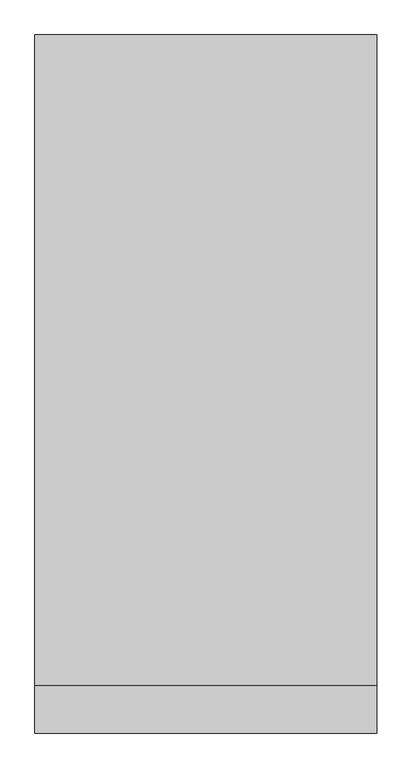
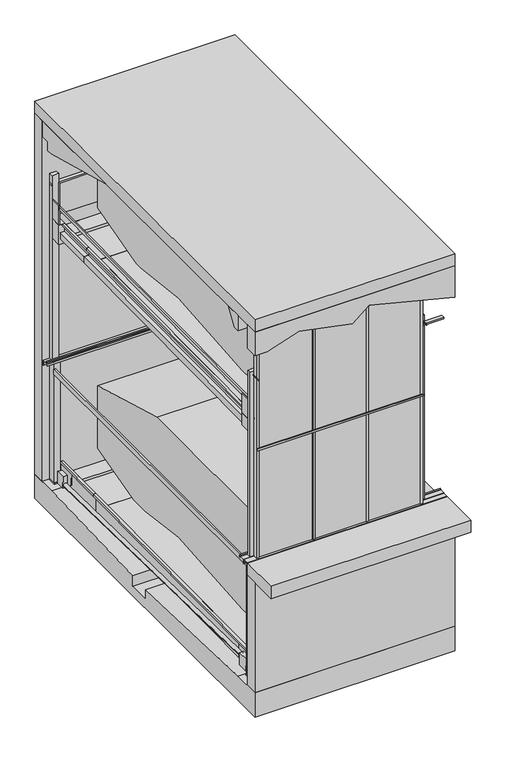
"""IFC4 building model written with IfcOpenShell, lengths in millimetres: proxy geometry, TrendVario_6300 : TrendVario_6300."""

from ifc_helpers import new_model, si_unit, point, frame, frame_2d, origin, origin_with_axes, place, context, project, spatial, polyline, circle_curve, trimmed, segment, composite_curve, outline, extrude, faceted_brep, source, transform, mapped, element, save
from ifc_brep_helpers import plane_surface, cylinder_surface, advanced_brep


def generic_models_7aee6f10(model_context):
    return source(origin(), model_context, "Body", "SolidModel", [
        extrude(outline(composite_curve([segment(trimmed(circle_curve(frame_2d((-273.0, 50.2890841)), 6.0), [point((-273.0, 44.2890841))], [point((-273.0, 56.2890841))], False, "CARTESIAN"), True, "CONTINUOUS"), segment(trimmed(circle_curve(frame_2d((-273.0, 50.2890841)), 6.0), [point((-273.0, 56.2890841))], [point((-273.0, 44.2890841))], False, "CARTESIAN"), True, "CONTINUOUS")], self_intersect=False)), frame((0.0, 5472.5930875, 0.0), z_axis=(0.0, 1.0, 0.0), x_axis=(0.0, 0.0, 1.0)), (0.0, 0.0, 1.0), 150.0),
        extrude(outline(composite_curve([segment(trimmed(circle_curve(frame_2d((-273.0, 2650.0)), 6.0), [point((-267.0, 2650.0))], [point((-279.0, 2650.0))], False, "CARTESIAN"), True, "CONTINUOUS"), segment(trimmed(circle_curve(frame_2d((-273.0, 2650.0)), 6.0), [point((-279.0, 2650.0))], [point((-267.0, 2650.0))], False, "CARTESIAN"), True, "CONTINUOUS")], self_intersect=False)), frame((0.0, 5469.6007019, 0.0), z_axis=(0.0, 1.0, 0.0), x_axis=(0.0, 0.0, 1.0)), (0.0, 0.0, 1.0), 150.0),
        extrude(outline(composite_curve([segment(trimmed(circle_curve(frame_2d((-273.0, 2650.0)), 6.0), [point((-267.0, 2650.0))], [point((-279.0, 2650.0))], False, "CARTESIAN"), True, "CONTINUOUS"), segment(trimmed(circle_curve(frame_2d((-273.0, 2650.0)), 6.0), [point((-279.0, 2650.0))], [point((-267.0, 2650.0))], False, "CARTESIAN"), True, "CONTINUOUS")], self_intersect=False)), frame((0.0, -50.0, 0.0), z_axis=(0.0, 1.0, 0.0), x_axis=(0.0, 0.0, 1.0)), (0.0, 0.0, 1.0), 150.0),
        extrude(outline(composite_curve([segment(trimmed(circle_curve(frame_2d((-273.0, 50.0)), 6.0), [point((-273.0, 56.0))], [point((-273.0, 44.0))], False, "CARTESIAN"), True, "CONTINUOUS"), segment(trimmed(circle_curve(frame_2d((-273.0, 50.0)), 6.0), [point((-273.0, 44.0))], [point((-273.0, 56.0))], False, "CARTESIAN"), True, "CONTINUOUS")], self_intersect=False)), frame((0.0, -50.0, 0.0), z_axis=(0.0, 1.0, 0.0), x_axis=(0.0, 0.0, 1.0)), (0.0, 0.0, 1.0), 150.0),
        extrude(outline(composite_curve([segment(trimmed(circle_curve(frame_2d((145.0, 150.0)), 6.0), [point((139.0, 150.0))], [point((151.0, 150.0))], False, "CARTESIAN"), True, "CONTINUOUS"), segment(trimmed(circle_curve(frame_2d((145.0, 150.0)), 6.0), [point((151.0, 150.0))], [point((139.0, 150.0))], False, "CARTESIAN"), True, "CONTINUOUS")], self_intersect=False)), frame((0.0, 0.0, -2150.0), z_axis=(0.0, 0.0, 1.0), x_axis=(1.0, 0.0, 0.0)), (0.0, 0.0, 1.0), 150.0),
        extrude(outline(composite_curve([segment(trimmed(circle_curve(frame_2d((2555.0, 150.0)), 6.0), [point((2549.0, 150.0))], [point((2561.0, 150.0))], False, "CARTESIAN"), True, "CONTINUOUS"), segment(trimmed(circle_curve(frame_2d((2555.0, 150.0)), 6.0), [point((2561.0, 150.0))], [point((2549.0, 150.0))], False, "CARTESIAN"), True, "CONTINUOUS")], self_intersect=False)), frame((0.0, 0.0, -2150.0), z_axis=(0.0, 0.0, 1.0), x_axis=(1.0, 0.0, 0.0)), (0.0, 0.0, 1.0), 150.0),
        extrude(outline(composite_curve([segment(trimmed(circle_curve(frame_2d((2555.0, 5422.5930852)), 6.0), [point((2549.0, 5422.5930852))], [point((2561.0, 5422.5930852))], False, "CARTESIAN"), True, "CONTINUOUS"), segment(trimmed(circle_curve(frame_2d((2555.0, 5422.5930852)), 6.0), [point((2561.0, 5422.5930852))], [point((2549.0, 5422.5930852))], False, "CARTESIAN"), True, "CONTINUOUS")], self_intersect=False)), frame((0.0, 0.0, -2150.0), z_axis=(0.0, 0.0, 1.0), x_axis=(1.0, 0.0, 0.0)), (0.0, 0.0, 1.0), 150.0),
        extrude(outline(polyline([(320.0, 0.0), (3.0, 0.0), (3.0, -49.0), (49.9999999, -49.0), (49.9999999, -89.0), (47.0, -89.0), (47.0, -52.0), (0.0, -52.0), (0.0, 3.0), (317.0, 3.0), (317.0, 40.0), (290.0, 40.0), (290.0, 43.0), (320.0, 43.0), (320.0, 0.0)])), frame((2600.0, 237.7412679, -1960.4094164), z_axis=(0.0, 0.9999619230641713, 0.008726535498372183), x_axis=(0.0, -0.008726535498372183, 0.9999619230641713)), (0.0, 0.0, 1.0), 4178.0),
        extrude(outline(polyline([(1941.867435, 0.0), (1941.867435, -1000.0), (-1962.132565, -1000.0), (-1962.132565, 0.0), (1941.867435, 0.0)])), frame((1600.0, 2473.3523611, -1890.89763), z_axis=(0.0, -0.008726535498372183, 0.9999619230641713), x_axis=(0.0, 0.9999619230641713, 0.008726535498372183)), (0.0, 0.0, 1.0), 8.0),
        extrude(outline(polyline([(0.0, -136.0000001), (0.0, 0.0), (67.0, 0.0), (67.0, -136.0000001), (0.0, -136.0000001)])), frame((20.0, 5291.8106638, -1946.3080138), z_axis=(0.0, -0.008726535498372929, 0.9999619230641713), x_axis=(1.0, 0.0, 0.0)), (0.0, 0.0, 1.0), 195.0),
        extrude(outline(polyline([(5313.4099527, -1671.1090481), (5316.1588114, -1986.0970538), (5181.1639517, -1987.2751361), (5044.9910098, -1853.4583588), (5042.809376, -1603.467878), (5282.8002375, -1601.3735095), (5283.411095, -1671.3708441), (5313.4099527, -1671.1090481)])), frame((87.0, 0.0, 0.0), z_axis=(1.0, 0.0, 0.0), x_axis=(0.0, 1.0, 0.0)), (0.0, 0.0, 1.0), 10.0),
        extrude(outline(polyline([(0.0, -1500.0), (0.0, 0.0), (870.0, 0.0), (870.0, -1500.0), (0.0, -1500.0)])), frame((100.0, 4415.1458963, -1873.955505), z_axis=(0.0, -0.008726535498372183, 0.9999619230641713), x_axis=(0.0, 0.9999619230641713, 0.008726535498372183)), (0.0, 0.0, 1.0), 8.0),
        extrude(outline(polyline([(5046.6680519, -1816.4423146), (5284.6589896, -1814.3653991), (5285.0429571, -1858.3637238), (5282.0430713, -1858.3899034), (5281.6852834, -1817.3914645), (5049.6941172, -1819.4160207), (5050.0519052, -1860.4144596), (5047.0520194, -1860.4406392), (5046.6680519, -1816.4423146)])), frame((100.0, 0.0, 0.0), z_axis=(1.0, 0.0, 0.0), x_axis=(0.0, 1.0, 0.0)), (0.0, 0.0, 1.0), 1500.0),
        extrude(outline(polyline([(320.0, 0.0), (320.0, -43.0), (290.0, -43.0), (290.0, -40.0), (317.0, -40.0), (317.0, -3.0), (0.0, -3.0), (0.0, 52.0), (47.0, 52.0), (47.0, 89.0), (50.0, 89.0), (50.0, 49.0), (3.0, 49.0), (3.0, 0.0), (320.0, 0.0)])), frame((100.0, 4415.5822231, -1923.9536012), z_axis=(0.0, 0.9999619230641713, 0.008726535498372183), x_axis=(0.0, -0.008726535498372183, 0.9999619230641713)), (0.0, 0.0, 1.0), 870.0),
        extrude(outline(composite_curve([segment(trimmed(circle_curve(frame_2d((145.0, 5422.5930852)), 6.0), [point((139.0, 5422.5930852))], [point((151.0, 5422.5930852))], False, "CARTESIAN"), True, "CONTINUOUS"), segment(trimmed(circle_curve(frame_2d((145.0, 5422.5930852)), 6.0), [point((151.0, 5422.5930852))], [point((139.0, 5422.5930852))], False, "CARTESIAN"), True, "CONTINUOUS")], self_intersect=False)), frame((0.0, 0.0, -2150.0), z_axis=(0.0, 0.0, 1.0), x_axis=(1.0, 0.0, 0.0)), (0.0, 0.0, 1.0), 150.0),
        extrude(outline(composite_curve([segment(trimmed(circle_curve(frame_2d((2965.0, 2650.0)), 6.0), [point((2965.0, 2644.0))], [point((2965.0, 2656.0))], False, "CARTESIAN"), True, "CONTINUOUS"), segment(trimmed(circle_curve(frame_2d((2965.0, 2650.0)), 6.0), [point((2965.0, 2656.0))], [point((2965.0, 2644.0))], False, "CARTESIAN"), True, "CONTINUOUS")], self_intersect=False)), frame((0.0, -50.0, 0.0), z_axis=(0.0, 1.0, 0.0), x_axis=(0.0, 0.0, 1.0)), (0.0, 0.0, 1.0), 150.0),
        extrude(outline(composite_curve([segment(trimmed(circle_curve(frame_2d((2965.0, 50.0)), 6.0), [point((2965.0, 44.0))], [point((2965.0, 56.0))], False, "CARTESIAN"), True, "CONTINUOUS"), segment(trimmed(circle_curve(frame_2d((2965.0, 50.0)), 6.0), [point((2965.0, 56.0))], [point((2965.0, 44.0))], False, "CARTESIAN"), True, "CONTINUOUS")], self_intersect=False)), frame((0.0, -50.0, 0.0), z_axis=(0.0, 1.0, 0.0), x_axis=(0.0, 0.0, 1.0)), (0.0, 0.0, 1.0), 150.0),
        extrude(outline(composite_curve([segment(trimmed(circle_curve(frame_2d((2965.0, 50.0)), 6.0), [point((2965.0, 44.0))], [point((2965.0, 56.0))], False, "CARTESIAN"), True, "CONTINUOUS"), segment(trimmed(circle_curve(frame_2d((2965.0, 50.0)), 6.0), [point((2965.0, 56.0))], [point((2965.0, 44.0))], False, "CARTESIAN"), True, "CONTINUOUS")], self_intersect=False)), frame((0.0, 5469.5778576, 0.0), z_axis=(0.0, 1.0, 0.0), x_axis=(0.0, 0.0, 1.0)), (0.0, 0.0, 1.0), 150.0),
        extrude(outline(composite_curve([segment(trimmed(circle_curve(frame_2d((2965.0, 2650.0)), 6.0), [point((2965.0, 2644.0))], [point((2965.0, 2656.0))], False, "CARTESIAN"), True, "CONTINUOUS"), segment(trimmed(circle_curve(frame_2d((2965.0, 2650.0)), 6.0), [point((2965.0, 2656.0))], [point((2965.0, 2644.0))], False, "CARTESIAN"), True, "CONTINUOUS")], self_intersect=False)), frame((0.0, 5469.6007019, 0.0), z_axis=(0.0, 1.0, 0.0), x_axis=(0.0, 0.0, 1.0)), (0.0, 0.0, 1.0), 150.0),
        extrude(outline(polyline([(2133.867435, 0.0), (2133.867435, -1000.0), (-1962.132565, -1000.0), (-1962.132565, 0.0), (2133.867435, 0.0)])), frame((1600.0, 2468.3986345, 2016.3034445), z_axis=(0.0, -0.008726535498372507, 0.9999619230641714), x_axis=(0.0, 0.9999619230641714, 0.008726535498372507)), (0.0, 0.0, 1.0), 8.0),
        extrude(outline(polyline([(0.0, -60.0), (0.0, 0.0), (4430.0, 0.0), (4430.0, -60.0), (0.0, -60.0)])), frame((2611.0, 171.9869847, 2038.264563), z_axis=(0.0, -0.008726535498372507, 0.9999619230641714), x_axis=(0.0, 0.9999619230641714, 0.008726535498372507)), (0.0, 0.0, 1.0), 100.0),
        extrude(outline(polyline([(0.0, -19.0), (0.0, 0.0), (4430.0, 0.0), (4430.0, -19.0), (0.0, -19.0)])), frame((2663.0, 167.9116926, 2505.246781), z_axis=(0.0, -0.008726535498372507, 0.9999619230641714), x_axis=(0.0, 0.9999619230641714, 0.008726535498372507)), (0.0, 0.0, 1.0), 56.0),
        faceted_brep([(2600.0, 4599.8286538, 2304.9144337), (2643.0, 4599.8286538, 2304.9144337), (2643.0, 4600.0904499, 2274.915576), (2640.0, 4600.0904499, 2274.915576), (2640.0, 4599.8548334, 2301.9145479), (2603.0, 4599.8548334, 2301.9145479), (2603.0, 4602.6211451, 1984.9266183), (2548.0, 4602.6211451, 1984.9266183), (2548.0, 4602.210998, 2031.9248287), (2511.0, 4602.210998, 2031.9248287), (2511.0, 4602.1848184, 2034.9247145), (2551.0, 4602.1848184, 2034.9247145), (2551.0, 4602.5949655, 1987.9265041), (2600.0, 4602.5949655, 1987.9265041), (2603.0, 102.7924914, 1945.6572086), (2603.0, 100.0261796, 2262.6451382), (2640.0, 100.0261796, 2262.6451382), (2640.0, 100.2617961, 2235.6461663), (2643.0, 100.2617961, 2235.6461663), (2643.0, 100.0, 2265.645024), (2600.0, 100.0, 2265.645024), (2600.0, 102.7924914, 1945.6572086), (2600.0, 202.7886837, 1946.5298621), (2548.0, 202.7886837, 1946.5298621), (2548.0, 202.3785365, 1993.5280725), (2511.0, 202.3785365, 1993.5280725), (2511.0, 202.3523569, 1996.5279583), (2551.0, 202.3523569, 1996.5279583), (2551.0, 202.7625041, 1949.5297479), (2600.0, 202.7625041, 1949.5297479)], [[[0, 1, 2, 3, 4, 5, 6, 7, 8, 9, 10, 11, 12, 13]], [[14, 15, 16, 17, 18, 19, 20, 21]], [[1, 0, 20, 19]], [[2, 1, 19, 18]], [[3, 2, 18, 17]], [[4, 3, 17, 16]], [[5, 4, 16, 15]], [[6, 5, 15, 14]], [[7, 6, 14, 21, 22, 23]], [[8, 7, 23, 24]], [[9, 8, 24, 25]], [[10, 9, 25, 26]], [[11, 10, 26, 27]], [[12, 11, 27, 28]], [[13, 12, 28, 29]], [[0, 13, 29, 22, 21, 20]], [[22, 29, 28, 27, 26, 25, 24, 23]]]),
        extrude(outline(polyline([(0.0, -1500.0), (0.0, 0.0), (869.9999999, 0.0), (869.9999999, -1500.0), (0.0, -1500.0)])), frame((100.0, 4602.1898877, 2034.9247587), z_axis=(0.0, -0.008726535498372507, 0.9999619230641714), x_axis=(0.0, 0.9999619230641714, 0.008726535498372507)), (0.0, 0.0, 1.0), 8.0),
        extrude(outline(polyline([(5233.7120432, 2092.4379491), (5471.7029809, 2094.5148646), (5472.0869485, 2050.51654), (5469.0870627, 2050.4903604), (5468.7292747, 2091.4887992), (5236.7381086, 2089.464243), (5237.0958965, 2048.4658041), (5234.0960108, 2048.4396245), (5233.7120432, 2092.4379491)])), frame((100.0, 0.0, 0.0), z_axis=(1.0, 0.0, 0.0), x_axis=(0.0, 1.0, 0.0)), (0.0, 0.0, 1.0), 1500.0),
        extrude(outline(polyline([(319.9999999, 0.0), (319.9999999, -43.0), (289.9999999, -43.0), (289.9999999, -40.0), (317.0, -40.0), (317.0, -3.0), (0.0, -3.0), (0.0, 52.0), (46.9999999, 52.0), (46.9999999, 89.0), (49.9999999, 89.0), (49.9999999, 49.0), (2.9999999, 49.0), (2.9999999, 0.0), (319.9999999, 0.0)])), frame((100.0, 4602.6262144, 1984.9266626), z_axis=(0.0, 0.9999619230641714, 0.008726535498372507), x_axis=(0.0, -0.008726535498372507, 0.9999619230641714)), (0.0, 0.0, 1.0), 870.0),
        extrude(outline(polyline([(5699.992384, -2000.0), (5699.992384, -2400.0), (-200.0, -2400.0), (-200.0, -2000.0), (250.0, -2000.0), (2725.0057083, -2086.4291038), (2725.0057083, -2247.5791163), (3075.0057083, -2247.5791163), (3075.0057083, -2075.9522084), (5249.9923858, -2000.0), (5699.992384, -2000.0)])), frame((-100.0, 0.0, 0.0), z_axis=(1.0, 0.0, 0.0), x_axis=(0.0, 1.0, 0.0)), (0.0, 0.0, 1.0), 3099.0),
        extrude(outline(polyline([(0.0, 5369.5930875), (30.0, 5369.5930875), (30.0, 200.0), (0.0, 200.0), (0.0, 5369.5930875)])), frame((0.0, 0.0, -200.0), z_axis=(0.0, 0.0, 1.0), x_axis=(1.0, 0.0, 0.0)), (0.0, 0.0, 1.0), 80.0),
        extrude(outline(polyline([(264.0, 210.0), (264.0, 90.0), (0.0, 90.0), (0.0, 210.0), (264.0, 210.0)])), frame((0.0, 0.0, -2000.0), z_axis=(0.0, 0.0, 1.0), x_axis=(1.0, 0.0, 0.0)), (0.0, 0.0, 1.0), 18.0),
        extrude(outline(polyline([(264.0, 5482.5930875), (264.0, 5359.5930875), (0.0, 5359.5930875), (0.0, 5482.5930875), (264.0, 5482.5930875)])), frame((0.0, 0.0, -2000.0), z_axis=(0.0, 0.0, 1.0), x_axis=(1.0, 0.0, 0.0)), (0.0, 0.0, 1.0), 18.0),
        extrude(outline(polyline([(2436.3569556, 5479.6007019), (2700.3569556, 5479.6007019), (2700.3569556, 5359.6007019), (2436.3569556, 5359.6007019), (2436.3569556, 5479.6007019)])), frame((0.0, 0.0, -2000.0), z_axis=(0.0, 0.0, 1.0), x_axis=(1.0, 0.0, 0.0)), (0.0, 0.0, 1.0), 18.0),
        extrude(outline(polyline([(2436.0, 90.0), (2436.0, 210.0), (2700.0, 210.0), (2700.0, 90.0), (2436.0, 90.0)])), frame((0.0, 0.0, -2000.0), z_axis=(0.0, 0.0, 1.0), x_axis=(1.0, 0.0, 0.0)), (0.0, 0.0, 1.0), 18.0),
        extrude(outline(composite_curve([segment(trimmed(circle_curve(frame_2d((-34.8939913, -3.2601796)), 30.0), [point((-64.8939913, -3.2601796))], [point((-4.8939913, -3.2601796))], False, "CARTESIAN"), True, "CONTINUOUS"), segment(trimmed(circle_curve(frame_2d((-34.8939913, -3.2601796)), 30.0), [point((-4.8939913, -3.2601796))], [point((-64.8939913, -3.2601796))], False, "CARTESIAN"), True, "CONTINUOUS")], self_intersect=False)), frame((20.0, 5155.4453642, -1905.0422399), z_axis=(0.0, -0.9997806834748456, 0.02094241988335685), x_axis=(-1.0, 0.0, 0.0)), (0.0, 0.0, 1.0), 4742.7442584),
        extrude(outline(composite_curve([segment(trimmed(circle_curve(frame_2d((39.6709454, 48.2295862)), 30.0), [point((9.6709454, 48.2295862))], [point((69.6709454, 48.2295862))], False, "CARTESIAN"), True, "CONTINUOUS"), segment(trimmed(circle_curve(frame_2d((39.6709454, 48.2295862)), 30.0), [point((69.6709454, 48.2295862))], [point((9.6709454, 48.2295862))], False, "CARTESIAN"), True, "CONTINUOUS")], self_intersect=False)), frame((2603.0, 5155.7604458, -1941.1470144), z_axis=(0.0, -0.9997806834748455, 0.020942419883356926), x_axis=(1.0, 0.0, 0.0)), (0.0, 0.0, 1.0), 4743.0440414),
        faceted_brep([(2670.0, 210.0, -120.0), (2670.0, 210.0, -200.0), (3000.0, 210.0, -200.0), (3000.0, 210.0, -120.0), (3000.0, 5359.6007019, -120.0), (3000.0, 5359.6007019, -200.0), (2673.0, 5359.6007019, -200.0), (2673.0, 5359.6007019, -120.0), (2670.0, 232.7875088, -120.0), (2670.0, 232.7875088, -200.0), (2670.0, 5357.5889979, -120.0), (2670.0, 5336.1530625, -200.0), (2670.0, 254.2234442, -200.0), (2673.0, 232.7875088, -200.0), (2673.0, 254.2234442, -200.0), (2673.0, 5336.1530625, -200.0), (2673.0, 5357.5889979, -120.0), (2673.0, 232.7875088, -120.0)], [[[0, 1, 2, 3]], [[4, 5, 6, 7]], [[1, 0, 8, 9]], [[10, 11, 12, 8]], [[2, 1, 9, 13, 14, 12, 11, 15, 6, 5]], [[3, 2, 5, 4]], [[0, 3, 4, 7, 16, 10, 8]], [[15, 16, 7, 6]], [[16, 15, 11, 10]], [[17, 14, 13]], [[8, 17, 13, 9]], [[17, 8, 12, 14]]]),
        extrude(outline(polyline([(2700.0, 5369.6007019), (2600.0, 5369.6007019), (2600.0, 5469.6007019), (2700.0, 5469.6007019), (2700.0, 5369.6007019)])), frame((0.0, 0.0, -2000.0), z_axis=(0.0, 0.0, 1.0), x_axis=(1.0, 0.0, 0.0)), (0.0, 0.0, 1.0), 2000.0),
        extrude(outline(polyline([(237.7566323, -1940.8501873), (236.1472757, -1756.4361785), (413.7566323, -1756.4361785), (413.7566323, -1939.3142585), (237.7566323, -1940.8501873)])), frame((2613.0, 0.0, 0.0), z_axis=(1.0, 0.0, 0.0), x_axis=(0.0, 1.0, 0.0)), (0.0, 0.0, 1.0), 70.0),
        extrude(outline(polyline([(237.7412679, -1960.4094164), (235.9626972, -1756.6053926), (413.7412679, -1756.6053926), (413.7412679, -1958.8734877), (237.7412679, -1960.4094164)])), frame((20.0, 0.0, 0.0), z_axis=(1.0, 0.0, 0.0), x_axis=(0.0, 1.0, 0.0)), (0.0, 0.0, 1.0), 70.0),
        extrude(outline(polyline([(0.0, -136.0000001), (0.0, 0.0), (67.0, 0.0), (67.0, -136.0000001), (0.0, -136.0000001)])), frame((2610.0, 5291.8106638, -1946.3080138), z_axis=(0.0, -0.008726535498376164, 0.9999619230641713), x_axis=(1.0, 0.0, 0.0)), (0.0, 0.0, 1.0), 195.0),
        extrude(outline(polyline([(2600.0, 200.0), (2700.0, 200.0), (2700.0, 100.0), (2600.0, 100.0), (2600.0, 200.0)])), frame((0.0, 0.0, -2000.0), z_axis=(0.0, 0.0, 1.0), x_axis=(1.0, 0.0, 0.0)), (0.0, 0.0, 1.0), 2000.0),
        extrude(outline(composite_curve([segment(polyline([(5320.048845, -585.9914336), (5320.048845, -1335.9999998), (5318.0564576, -1335.9999998), (5318.0564576, -1608.1402276), (4313.3699728, -1877.3451599)]), True, "CONTINUOUS"), segment(trimmed(circle_curve(frame_2d((4247.6299354, -1632.0)), 254.0), [point((4313.3699728, -1877.3451599))], [point((4224.7221662, -1884.9648871))], False, "CARTESIAN"), True, "CONTINUOUS"), segment(polyline([(4224.7221662, -1884.9648871), (3145.3807126, -1751.0), (1424.180165, -1884.6085614)]), True, "CONTINUOUS"), segment(trimmed(circle_curve(frame_2d((1397.6299354, -1632.0)), 254.0), [point((1424.180165, -1884.6085614))], [point((1340.4923675, -1879.4899965))], False, "CARTESIAN"), True, "CONTINUOUS"), segment(polyline([(1340.4923675, -1879.4899965), (320.456461, -1643.9961518), (320.456461, -689.5033287), (622.3673675, -136.0), (3720.0793025, -135.9999998), (5320.048845, -585.9914336)]), True, "CONTINUOUS")], self_intersect=False)), frame((650.0, 0.0, 0.0), z_axis=(1.0, 0.0, 0.0), x_axis=(0.0, 1.0, 0.0)), (0.0, 0.0, 1.0), 1900.0),
        extrude(outline(polyline([(2999.0, -200.0), (-100.0, -200.0), (-100.0, 0.0), (2999.0, 0.0), (2999.0, -200.0)])), frame((0.0, 0.0, -2000.0), z_axis=(0.0, 0.0, 1.0), x_axis=(1.0, 0.0, 0.0)), (0.0, 0.0, 1.0), 1800.0),
        faceted_brep([(100.0, 4412.2895056, -1603.966424), (100.0, 4415.0558174, -1920.9543536), (149.0, 4415.0558174, -1920.9543536), (149.0, 4414.6456702, -1873.9561432), (189.0, 4414.6456702, -1873.9561432), (189.0, 4414.6718498, -1876.956029), (152.0, 4414.6718498, -1876.956029), (152.0, 4415.081997, -1923.9542393), (97.0, 4415.081997, -1923.9542393), (97.0, 4412.3156852, -1606.9663097), (60.0, 4412.3156852, -1606.9663097), (60.0, 4412.5513017, -1633.9652817), (57.0, 4412.5513017, -1633.9652817), (57.0, 4412.2895056, -1603.966424), (100.0, 237.741276, -1960.4093395), (100.0, 234.9487847, -1640.4215242), (57.0, 234.9487847, -1640.4215242), (57.0, 235.2105807, -1670.4203818), (60.0, 235.2105807, -1670.4203818), (60.0, 234.9749643, -1643.4214099), (97.0, 234.9749643, -1643.4214099), (97.0, 237.741276, -1960.4093395), (100.0, 337.7374683, -1959.536686), (100.0, 337.7112887, -1956.5368002), (149.0, 337.7112887, -1956.5368002), (149.0, 337.3011416, -1909.5385898), (189.0, 337.3011416, -1909.5385898), (189.0, 337.3273212, -1912.5384756), (152.0, 337.3273212, -1912.5384756), (152.0, 337.7374683, -1959.536686)], [[[0, 1, 2, 3, 4, 5, 6, 7, 8, 9, 10, 11, 12, 13]], [[14, 15, 16, 17, 18, 19, 20, 21]], [[1, 0, 15, 14, 22, 23]], [[2, 1, 23, 24]], [[3, 2, 24, 25]], [[4, 3, 25, 26]], [[5, 4, 26, 27]], [[6, 5, 27, 28]], [[7, 6, 28, 29]], [[8, 7, 29, 22, 14, 21]], [[9, 8, 21, 20]], [[10, 9, 20, 19]], [[11, 10, 19, 18]], [[12, 11, 18, 17]], [[13, 12, 17, 16]], [[0, 13, 16, 15]], [[23, 22, 29, 28, 27, 26, 25, 24]]]),
        extrude(outline(polyline([(556.8174373, -1957.6248809), (237.7412679, -1960.4094164), (235.9626972, -1756.6053926), (322.913076, -1669.6550138), (556.8174373, -1667.6137613), (556.8174373, -1957.6248809)])), frame((90.0, 0.0, 0.0), z_axis=(1.0, 0.0, 0.0), x_axis=(0.0, 1.0, 0.0)), (0.0, 0.0, 1.0), 10.0),
        extrude(outline(polyline([(342.6444987, -1649.9235911), (556.8174373, -1648.0545322), (556.8174373, -1938.0656517), (237.7412679, -1940.8501873), (236.1319113, -1756.4361785), (342.6444987, -1649.9235911)])), frame((2603.0, 0.0, 0.0), z_axis=(1.0, 0.0, 0.0), x_axis=(0.0, 1.0, 0.0)), (0.0, 0.0, 1.0), 10.0),
        extrude(outline(polyline([(5282.7827844, -1599.3735857), (5283.411095, -1671.3708441), (5313.4099527, -1671.1090481), (5316.1588114, -1986.0970538), (5181.1639517, -1987.2751361), (5044.9910098, -1853.4583588), (5042.7919229, -1601.4679542), (5282.7827844, -1599.3735857)])), frame((2600.0, 0.0, 0.0), z_axis=(1.0, 0.0, 0.0), x_axis=(0.0, 1.0, 0.0)), (0.0, 0.0, 1.0), 10.0),
        extrude(outline(polyline([(2600.0, 511.2945081), (2600.0, 241.2945081), (100.0, 241.2945081), (100.0, 511.2945081), (2600.0, 511.2945081)])), frame((0.0, 0.0, -1888.4610204), z_axis=(0.0, 0.0, 1.0), x_axis=(1.0, 0.0, 0.0)), (0.0, 0.0, 1.0), 30.0),
        extrude(outline(polyline([(319.9999232, -43.0), (2.9999232, -43.0), (2.9999232, -92.0), (49.9999231, -92.0), (49.9999231, -132.0), (46.9999232, -132.0), (46.9999232, -95.0), (-7.68e-05, -95.0), (-7.68e-05, -40.0), (316.9999232, -40.0), (316.9999232, -3.0), (289.9999232, -3.0), (289.9999232, 0.0), (319.9999232, 0.0), (319.9999232, -43.0)])), frame((2643.0, 4415.5821906, -1923.9498742), z_axis=(0.0, 0.9999619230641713, 0.008726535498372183), x_axis=(0.0, -0.008726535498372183, 0.9999619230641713)), (0.0, 0.0, 1.0), 881.0149678),
        extrude(outline(polyline([(100.4126792, 0.0), (100.4126792, -870.5002127), (-899.5873208, -870.5002127), (-899.5873208, 0.0), (100.4126792, 0.0)])), frame((2499.5873208, 5285.1127694, -1866.3634191), z_axis=(0.0, -0.008726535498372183, 0.9999619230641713), x_axis=(1.0, 0.0, 0.0)), (0.0, 0.0, 1.0), 8.0),
        extrude(outline(polyline([(5287.3947785, -1814.337797), (5287.7787461, -1858.3361216), (5284.7788603, -1858.3623013), (5284.4210724, -1817.3638624), (5052.4299062, -1819.3884186), (5052.7876942, -1860.3868575), (5049.7878084, -1860.4130371), (5049.4038408, -1816.4147125), (5287.3947785, -1814.337797)])), frame((1600.0, 0.0, 0.0), z_axis=(1.0, 0.0, 0.0), x_axis=(0.0, 1.0, 0.0)), (0.0, 0.0, 1.0), 1000.0),
        extrude(outline(polyline([(2038.9337722, 0.0), (2038.9337722, -1500.0), (-1864.3763713, -1500.0), (-1864.3763713, 0.0), (2038.9337722, 0.0)])), frame((1600.0, 2550.3403211, -1890.2294167), z_axis=(0.0, -0.008726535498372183, 0.9999619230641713), x_axis=(0.0, -0.9999619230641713, -0.008726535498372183)), (0.0, 0.0, 1.0), 8.0),
        extrude(outline(polyline([(-100.0, 5377.3954888), (-100.0, 5402.3954888), (2999.0, 5402.3954888), (2999.0, 5377.3954888), (-100.0, 5377.3954888)])), frame((0.0, 0.0, 8.0), z_axis=(0.0, 0.0, 1.0), x_axis=(1.0, 0.0, 0.0)), (0.0, 0.0, 1.0), 15.0),
        extrude(outline(polyline([(5472.5930893, 0.0), (5472.5930893, -80.0), (5469.5930893, -80.0), (5469.5930893, -3.0), (5369.5930893, -3.0), (5369.5930893, -30.0), (5366.5930893, -30.0), (5366.5930893, 0.0), (5472.5930893, 0.0)])), frame((-100.0, 0.0, 0.0), z_axis=(1.0, 0.0, 0.0), x_axis=(0.0, 1.0, 0.0)), (0.0, 0.0, 1.0), 3099.0),
        extrude(outline(polyline([(100.0, 32.0), (60.0, 32.0), (60.0, 100.0), (100.0, 100.0), (100.0, 32.0)])), origin_with_axes(), (0.0, 0.0, 1.0), 3526.0),
        extrude(outline(polyline([(506.3333687, 2021.7621074), (506.6824301, 1981.7636305), (503.6825444, 1981.7374509), (503.3596625, 2018.736042), (261.7372106, 2016.6274348), (105.9840281, 1973.4332545), (112.3977491, 1950.3061236), (133.5976191, 1956.1853679), (134.3993342, 1953.2944765), (110.3085729, 1946.6135171), (102.2914216, 1975.5224307), (261.3160886, 2019.623874), (506.3333687, 2021.7621074)])), frame((100.0, 0.0, 0.0), z_axis=(1.0, 0.0, 0.0), x_axis=(0.0, 1.0, 0.0)), (0.0, 0.0, 1.0), 2500.0),
        extrude(outline(polyline([(-100.0, -630.5625149), (-100.0, 0.0), (2999.0, 0.0), (2999.0, -630.5625149), (-100.0, -630.5625149)])), frame((0.0, 0.0, -200.0), z_axis=(0.0, 0.0, 1.0), x_axis=(1.0, 0.0, 0.0)), (0.0, 0.0, 1.0), 200.0),
        extrude(outline(polyline([(200.0, -2000.0), (100.0, -2000.0), (100.0, 3025.0), (160.0, 3025.0), (160.0, 8.0), (200.0, 8.0), (200.0, -2000.0)])), frame((0.0, 0.0, 0.0), z_axis=(1.0, 0.0, 0.0), x_axis=(0.0, 1.0, 0.0)), (0.0, 0.0, 1.0), 100.0),
        faceted_brep([(-100.0, 5349.9847702, 3650.0), (2999.0, 5349.9847702, 3650.0), (2999.0, 5349.9847702, 3500.0), (-100.0, 5349.9847702, 3500.0), (-100.0, 5499.9619265, 3650.0), (2999.0, 5499.9619265, 3650.0), (2999.0, 5267.6782592, 3500.0), (2999.0, 3799.963506, 3900.0057953), (-100.0, 3799.9847702, 3900.0), (-100.0, 5267.6782592, 3500.0), (2999.0, 5499.9619265, 3900.0), (-100.0, 5499.9619265, 3900.0)], [[[0, 1, 2, 3]], [[1, 0, 4, 5]], [[6, 7, 8, 9]], [[10, 7, 6, 2, 1, 5]], [[8, 11, 4, 0, 3, 9]], [[11, 10, 5, 4]], [[7, 10, 11, 8]], [[2, 6, 9, 3]]]),
        extrude(outline(polyline([(3511.8273555, -100.0), (3511.8273555, 90.0080034), (3672.5161926, 584.5573919), (3511.8273555, 1411.229794), (3719.8801857, 1665.5456754), (3387.4126821, 2999.0), (3900.0, 2999.0), (3900.0, -100.0), (3511.8273555, -100.0)])), frame((0.0, -200.0, 0.0), z_axis=(0.0, 1.0, 0.0), x_axis=(0.0, 0.0, 1.0)), (0.0, 0.0, 1.0), 200.0),
        extrude(outline(polyline([(100.0, 45.0), (100.0, 55.0), (2600.0, 55.0), (2600.0, 45.0), (100.0, 45.0)])), origin_with_axes(), (0.0, 0.0, 1.0), 3526.0),
        extrude(outline(polyline([(1798.6666667, 44.0), (1798.6666667, 35.0), (1768.6666667, 35.0), (1768.6666667, 44.0), (1798.6666667, 44.0)])), origin_with_axes(), (0.0, 0.0, 1.0), 3526.0),
        extrude(outline(polyline([(964.3333333, 44.0), (964.3333333, 35.0), (934.3333333, 35.0), (934.3333333, 44.0), (964.3333333, 44.0)])), origin_with_axes(), (0.0, 0.0, 1.0), 3526.0),
        extrude(outline(polyline([(0.0, -19.0), (0.0, 0.0), (5247.1058324, 0.0), (5247.1058324, -19.0), (0.0, -19.0)])), frame((37.0, 5402.750815, 2550.93053), z_axis=(0.0, -0.008726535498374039, 0.9999619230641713), x_axis=(0.0, -0.9999619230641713, -0.008726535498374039)), (0.0, 0.0, 1.0), 56.0),
        extrude(outline(polyline([(18.0, 5242.5930875), (7.0, 5242.5930875), (7.0, 5412.5930875), (18.0, 5412.5930875), (18.0, 5242.5930875)])), frame((0.0, 0.0, 2319.0), z_axis=(0.0, 0.0, 1.0), x_axis=(1.0, 0.0, 0.0)), (0.0, 0.0, 1.0), 310.0),
        extrude(outline(polyline([(2682.0, 5242.0564576), (2682.0, 5412.0564576), (2693.0, 5412.0564576), (2693.0, 5242.0564576), (2682.0, 5242.0564576)])), frame((0.0, 0.0, 2319.0), z_axis=(0.0, 0.0, 1.0), x_axis=(1.0, 0.0, 0.0)), (0.0, 0.0, 1.0), 310.0),
        extrude(outline(polyline([(5410.0564576, 3025.0), (5469.6007019, 3025.0), (5469.6007019, 0.0), (5412.0564576, 0.0), (5412.0564576, 8.0), (5410.0564576, 8.0), (5410.0564576, 3025.0)])), frame((2600.0, 0.0, 0.0), z_axis=(1.0, 0.0, 0.0), x_axis=(0.0, 1.0, 0.0)), (0.0, 0.0, 1.0), 100.0),
        extrude(outline(polyline([(5472.5930875, -2000.0), (5369.5930875, -2000.0), (5369.5930875, 8.0), (5409.5930875, 8.0), (5409.5930875, 3025.0), (5469.5930875, 3025.0), (5469.5930875, 0.0), (5472.5930875, 0.0), (5472.5930875, -2000.0)])), frame((0.0, 0.0, 0.0), z_axis=(1.0, 0.0, 0.0), x_axis=(0.0, 1.0, 0.0)), (0.0, 0.0, 1.0), 100.0),
        advanced_brep(
        [(650.0080034, 319.1090444, 2530.0), (650.0080034, 312.8152781, 3251.1941877), (650.0080034, 610.2970904, 3807.9723191), (650.0080034, 817.391149, 3809.7796016), (650.0080034, 818.414475, 3811.6948969), (650.0080034, 3720.0713452, 3837.0172728), (650.0080034, 5320.0488456, 3400.9650555), (650.0080034, 5320.0564576, 2327.578956), (650.0080034, 4315.7898833, 2049.0711861), (650.0080034, 4227.211946, 2040.6781608), (650.0080034, 3146.7425411, 2165.2190354), (650.0080034, 1426.7734714, 2016.5954437), (650.0080034, 1343.0441931, 2020.9835093), (650.0080034, 327.0638179, 2246.2209358), (650.0080034, 324.5873155, 2530.0), (2550.0080034, 610.2970903, 3807.9723191), (2550.0080034, 312.8152781, 3251.1941877), (2550.0080034, 319.1090444, 2530.0), (2550.0080034, 324.5873155, 2530.0), (2550.0080034, 327.0638178, 2246.2209358), (2550.0080034, 1343.0441931, 2020.9835093), (2550.0080034, 1426.7734714, 2016.5954437), (2550.0080034, 3146.7425411, 2165.2190354), (2550.0080034, 4227.211946, 2040.6781608), (2550.0080034, 4315.7898833, 2049.0711861), (2550.0080034, 5320.0564576, 2327.578956), (2550.0080034, 5320.0488456, 3400.9650555), (2550.0080034, 3720.0713452, 3837.0172728), (2550.0080034, 818.414475, 3811.6948969), (2550.0080034, 817.391149, 3809.7796016)],
        [
            (0, 1),
            (1, 2),
            (2, 3),
            (3, 4),
            (4, 5),
            (5, 6),
            (6, 7),
            (7, 8),
            (8, 9, circle_curve(frame((650.0080034, 4247.9113358, 2293.8333213), z_axis=(-1.0, 6.846874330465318e-12, 0.0), x_axis=(6.846340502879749e-12, 0.9999619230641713, 0.008726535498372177)), 254.0)),
            (9, 10),
            (10, 11),
            (11, 12, circle_curve(frame((650.0080034, 1398.0198551, 2268.9626951), z_axis=(-1.0, 6.846874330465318e-12, 0.0), x_axis=(6.846340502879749e-12, 0.9999619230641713, 0.008726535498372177)), 254.0)),
            (12, 13),
            (13, 14),
            (14, 0),
            (15, 16),
            (16, 17),
            (17, 18),
            (18, 19),
            (19, 20),
            (20, 21, circle_curve(frame((2550.0080034, 1398.0198551, 2268.9626951), z_axis=(1.0, -6.846874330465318e-12, 0.0), x_axis=(6.846340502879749e-12, 0.9999619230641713, 0.008726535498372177)), 254.0)),
            (21, 22),
            (22, 23),
            (23, 24, circle_curve(frame((2550.0080034, 4247.9113358, 2293.8333213), z_axis=(1.0, -6.846874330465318e-12, 0.0), x_axis=(6.846340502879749e-12, 0.9999619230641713, 0.008726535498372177)), 254.0)),
            (24, 25),
            (25, 26),
            (26, 27),
            (27, 28),
            (28, 29),
            (29, 15),
            (2, 15),
            (29, 3),
            (1, 16),
            (17, 0),
            (14, 18),
            (4, 28),
            (27, 5),
            (26, 6),
            (25, 7),
            (24, 8),
            (23, 9),
            (22, 10),
            (21, 11),
            (20, 12),
            (19, 13),
        ],
        [
            plane_surface(frame((650.0080034, 428.8717402, 3900.0), z_axis=(-1.0, 6.846035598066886e-12, 0.0), x_axis=(0.0, 0.0, 1.0))),
            plane_surface(frame((2550.0080034, 428.8717402, 3900.0), z_axis=(1.0, -6.846035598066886e-12, 0.0), x_axis=(0.0, 0.0, 1.0))),
            plane_surface(frame((650.0080034, 610.2970904, 3807.9723191), z_axis=(0.0, -0.008726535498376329, 0.9999619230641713), x_axis=(1.0, -6.845999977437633e-12, 0.0))),
            plane_surface(frame((650.0080034, 312.8152781, 3251.1941877), z_axis=(-6.038215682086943e-12, -0.8820017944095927, 0.4712460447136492), x_axis=(1.0, -6.846035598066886e-12, 0.0))),
            plane_surface(frame((650.0080034, 4789.9238543, 2530.0), z_axis=(0.0, 0.0, -1.0), x_axis=(1.0, -6.845999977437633e-12, 0.0))),
            plane_surface(frame((650.0080034, 319.1090444, 2530.0), z_axis=(-6.845774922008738e-12, -0.9999619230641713, -0.008726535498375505), x_axis=(1.0, -6.846035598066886e-12, 0.0))),
            plane_surface(frame((650.0080034, 818.414475, 3811.6948969), z_axis=(0.0, -0.008726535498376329, 0.9999619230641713), x_axis=(1.0, -6.846142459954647e-12, 0.0))),
            plane_surface(frame((650.0080034, 3720.0713452, 3837.0172728), z_axis=(1.8001286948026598e-12, 0.2629460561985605, 0.9648105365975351), x_axis=(1.0, -6.845999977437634e-12, 0.0))),
            plane_surface(frame((650.0080034, 520.9024424, 3254.860204), z_axis=(-6.038309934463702e-12, -0.8820017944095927, 0.4712460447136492), x_axis=(1.0, -6.846142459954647e-12, 0.0))),
            plane_surface(frame((650.0080034, 5320.0488456, 3400.9650555), z_axis=(6.845999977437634e-12, 1.0, 0.0), x_axis=(1.0, -6.845999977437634e-12, 0.0))),
            plane_surface(frame((2550.0080034, 4315.7898833, 2049.0711861), z_axis=(1.7715731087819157e-12, 0.26723837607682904, -0.963630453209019), x_axis=(-1.0, 6.8459999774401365e-12, 0.0))),
            cylinder_surface(frame((2550.0080034, 4247.9113358, 2293.8333213), z_axis=(1.0, -6.846874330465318e-12, 0.0), x_axis=(6.846340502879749e-12, 0.9999619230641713, 0.008726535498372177)), 254.0),
            plane_surface(frame((2550.0080034, 3146.7425411, 2165.2190354), z_axis=(0.0, -0.11450735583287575, -0.9934224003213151), x_axis=(-1.0, 6.8459999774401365e-12, 0.0))),
            plane_surface(frame((2550.0080034, 1426.7734714, 2016.5954437), z_axis=(0.0, 0.08608980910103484, -0.9962873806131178), x_axis=(-1.0, 6.8459999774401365e-12, 0.0))),
            cylinder_surface(frame((2550.0080034, 1398.0198551, 2268.9626951), z_axis=(1.0, -6.846874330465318e-12, 0.0), x_axis=(6.846340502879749e-12, 0.9999619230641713, 0.008726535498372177)), 254.0),
            plane_surface(frame((2550.0080034, 327.0638178, 2246.2209358), z_axis=(-1.539891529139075e-12, -0.21643961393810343, -0.9762960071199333), x_axis=(-1.0, 6.845999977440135e-12, 0.0))),
            plane_surface(frame((2550.0080034, 320.9123456, 2951.1098351), z_axis=(-6.846259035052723e-12, -0.9999619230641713, -0.00872653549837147), x_axis=(-1.0, 6.8459999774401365e-12, 0.0))),
        ],
        [
            (0, [[1, 2, 3, 4, 5, 6, 7, 8, 9, 10, 11, 12, 13, 14, 15]]),
            (1, [[16, 17, 18, 19, 20, 21, 22, 23, 24, 25, 26, 27, 28, 29, 30]]),
            (2, [[31, -30, 32, -3]]),
            (3, [[-2, 33, -16, -31]]),
            (4, [[34, -15, 35, -18]]),
            (5, [[-1, -34, -17, -33]]),
            (6, [[-5, 36, -28, 37]]),
            (7, [[-6, -37, -27, 38]]),
            (8, [[-36, -4, -32, -29]]),
            (9, [[-7, -38, -26, 39]]),
            (10, [[-25, 40, -8, -39]]),
            (11, [[-24, 41, -9, -40]]),
            (12, [[-23, 42, -10, -41]]),
            (13, [[-22, 43, -11, -42]]),
            (14, [[-21, 44, -12, -43]]),
            (15, [[-20, 45, -13, -44]]),
            (16, [[-45, -19, -35, -14]]),
        ],
    ),
        extrude(outline(polyline([(1798.6666667, 35.0), (1768.6666667, 35.0), (1768.6666667, 44.0), (1798.6666667, 44.0), (1798.6666667, 35.0)])), origin_with_axes(), (0.0, 0.0, 1.0), 3526.0),
        extrude(outline(polyline([(964.3333333, 35.0), (934.3333333, 35.0), (934.3333333, 44.0), (964.3333333, 44.0), (964.3333333, 35.0)])), origin_with_axes(), (0.0, 0.0, 1.0), 3526.0),
        extrude(outline(polyline([(2999.0, 153.0), (2999.0, 100.0), (97.0, 100.0), (97.0, 153.0), (2999.0, 153.0)])), frame((0.0, 0.0, 2854.0), z_axis=(0.0, 0.0, 1.0), x_axis=(1.0, 0.0, 0.0)), (0.0, 0.0, 1.0), 25.0),
        extrude(outline(polyline([(-3.0, 5419.5930875), (-3.0, 5472.5930875), (2999.0, 5472.5930875), (2999.0, 5419.5930875), (-3.0, 5419.5930875)])), frame((0.0, 0.0, 2854.0), z_axis=(0.0, 0.0, 1.0), x_axis=(1.0, 0.0, 0.0)), (0.0, 0.0, 1.0), 25.0),
        extrude(outline(polyline([(700.0, 5469.6007019), (700.0, 5384.6007019), (100.0, 5384.6007019), (100.0, 5469.6007019), (700.0, 5469.6007019)])), frame((0.0, 0.0, 2379.0), z_axis=(0.0, 0.0, 1.0), x_axis=(1.0, 0.0, 0.0)), (0.0, 0.0, 1.0), 500.0),
        extrude(outline(polyline([(250.0, 3650.0), (250.0, 3900.0), (500.0, 3900.0), (349.6363636, 3650.0), (250.0, 3650.0)])), frame((-100.0, 0.0, 0.0), z_axis=(1.0, 0.0, 0.0), x_axis=(0.0, 1.0, 0.0)), (0.0, 0.0, 1.0), 3099.0),
        extrude(outline(polyline([(60.0, 32.0), (60.0, 100.0), (2640.0, 100.0), (2640.0, 32.0), (60.0, 32.0)])), frame((0.0, 0.0, 3526.0), z_axis=(0.0, 0.0, 1.0), x_axis=(1.0, 0.0, 0.0)), (0.0, 0.0, 1.0), 74.0),
        extrude(outline(polyline([(60.0, 20.0), (60.0, 34.0), (2640.0, 34.0), (2640.0, 20.0), (60.0, 20.0)])), frame((0.0, 0.0, 1763.0), z_axis=(0.0, 0.0, 1.0), x_axis=(1.0, 0.0, 0.0)), (0.0, 0.0, 1.0), 30.0),
        extrude(outline(polyline([(2640.0, 32.0), (2600.0, 32.0), (2600.0, 100.0), (2640.0, 100.0), (2640.0, 32.0)])), origin_with_axes(), (0.0, 0.0, 1.0), 3526.0),
        extrude(outline(polyline([(0.0, -19.0), (0.0, 0.0), (812.4784443, 0.0), (812.4784443, -19.0), (0.0, -19.0)])), frame((2682.0, 5410.1905194, 2550.9954553), z_axis=(0.0, -0.008726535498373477, 0.9999619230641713), x_axis=(0.0, -0.9999619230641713, -0.008726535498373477)), (0.0, 0.0, 1.0), 56.0),
        extrude(outline(polyline([(0.0, -59.9999949), (0.0, 0.0), (722.0421176, 0.0), (722.0421176, -59.9999949), (0.0, -59.9999949)])), frame((2610.9999948, 4601.8183039, 2076.9231152), z_axis=(0.0, -0.008726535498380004, 0.9999619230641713), x_axis=(0.0, 0.9999619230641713, 0.008726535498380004)), (0.0, 0.0, 1.0), 100.0),
        extrude(outline(polyline([(0.0, -60.0), (0.0, 0.0), (4430.0, 0.0), (4430.0, -60.0), (0.0, -60.0)])), frame((29.0, 171.9869847, 2038.264563), z_axis=(0.0, -0.008726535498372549, 0.9999619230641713), x_axis=(0.0, 0.9999619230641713, 0.008726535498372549)), (0.0, 0.0, 1.0), 100.0),
        extrude(outline(polyline([(0.0, -60.0), (0.0, 0.0), (685.0, 0.0), (685.0, -60.0), (0.0, -60.0)])), frame((29.0, 4601.8233732, 2076.9231595), z_axis=(0.0, -0.008726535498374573, 0.9999619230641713), x_axis=(0.0, 0.9999619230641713, 0.008726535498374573)), (0.0, 0.0, 1.0), 100.0),
        extrude(outline(polyline([(5412.0564576, 1991.9660839), (5242.0564576, 1990.4825163), (5242.0564576, 2314.0), (5412.0564576, 2314.0), (5412.0564576, 1991.9660839)])), frame((2603.0, 0.0, 0.0), z_axis=(1.0, 0.0, 0.0), x_axis=(0.0, 1.0, 0.0)), (0.0, 0.0, 1.0), 90.0),
        extrude(outline(polyline([(5242.5930875, 1990.4871994), (5242.5930875, 2314.0), (5412.5930875, 2314.0), (5412.5930875, 1991.970767), (5242.5930875, 1990.4871994)])), frame((7.0, 0.0, 0.0), z_axis=(1.0, 0.0, 0.0), x_axis=(0.0, 1.0, 0.0)), (0.0, 0.0, 1.0), 90.0),
        extrude(outline(polyline([(7.0, 160.0), (7.0, 330.0), (18.0, 330.0), (18.0, 160.0), (7.0, 160.0)])), frame((0.0, 0.0, 2229.0), z_axis=(0.0, 0.0, 1.0), x_axis=(1.0, 0.0, 0.0)), (0.0, 0.0, 1.0), 315.0),
        extrude(outline(polyline([(7.0, 160.0), (7.0, 330.0), (97.0, 330.0), (97.0, 160.0), (7.0, 160.0)])), frame((0.0, 0.0, 2029.0), z_axis=(0.0, 0.0, 1.0), x_axis=(1.0, 0.0, 0.0)), (0.0, 0.0, 1.0), 195.0),
        extrude(outline(polyline([(2693.0, 330.0), (2693.0, 160.0), (2682.0, 160.0), (2682.0, 330.0), (2693.0, 330.0)])), frame((0.0, 0.0, 2229.0), z_axis=(0.0, 0.0, 1.0), x_axis=(1.0, 0.0, 0.0)), (0.0, 0.0, 1.0), 315.0),
        extrude(outline(polyline([(2693.0, 330.0), (2693.0, 160.0), (2603.0, 160.0), (2603.0, 330.0), (2693.0, 330.0)])), frame((0.0, 0.0, 2029.0), z_axis=(0.0, 0.0, 1.0), x_axis=(1.0, 0.0, 0.0)), (0.0, 0.0, 1.0), 195.0),
        extrude(outline(polyline([(0.0, 2700.0), (3025.0, 2700.0), (3025.0, 2600.0), (8.0, 2600.0), (8.0, 2603.0), (0.0, 2603.0), (0.0, 2700.0)])), frame((0.0, 100.0, 0.0), z_axis=(0.0, 1.0, 0.0), x_axis=(0.0, 0.0, 1.0)), (0.0, 0.0, 1.0), 60.0),
        extrude(outline(polyline([(2603.0, 5472.5930875), (2603.0, 5419.5930875), (97.0, 5419.5930875), (97.0, 5472.5930875), (2603.0, 5472.5930875)])), frame((0.0, 0.0, 2854.0), z_axis=(0.0, 0.0, 1.0), x_axis=(1.0, 0.0, 0.0)), (0.0, 0.0, 1.0), 25.0),
        extrude(outline(polyline([(2603.0, 153.0), (2603.0, 100.0), (100.0, 100.0), (100.0, 153.0), (2603.0, 153.0)])), frame((0.0, 0.0, 2854.0), z_axis=(0.0, 0.0, 1.0), x_axis=(1.0, 0.0, 0.0)), (0.0, 0.0, 1.0), 25.0),
        extrude(outline(polyline([(-100.0, 169.9031048), (-100.0, 194.9031048), (2999.0, 194.9031048), (2999.0, 169.9031048), (-100.0, 169.9031048)])), frame((0.0, 0.0, 7.5), z_axis=(0.0, 0.0, 1.0), x_axis=(1.0, 0.0, 0.0)), (0.0, 0.0, 1.0), 15.0),
        extrude(outline(polyline([(100.0, 0.0), (100.0, -73.0), (97.0, -73.0), (97.0, 7.0), (203.0, 7.0), (203.0, -23.0), (200.0, -23.0), (200.0, 0.0), (100.0, 0.0)])), frame((-100.0, 0.0, 0.0), z_axis=(1.0, 0.0, 0.0), x_axis=(0.0, 1.0, 0.0)), (0.0, 0.0, 1.0), 3099.0),
        extrude(outline(polyline([(96.5, 0.0), (96.5, -48.0), (93.5, -48.0), (93.5, -3.0), (13.0, -3.0), (13.0, -48.0), (10.0, -48.0), (10.0, 0.0), (96.5, 0.0)])), frame((-100.0, 0.0, 0.0), z_axis=(1.0, 0.0, 0.0), x_axis=(0.0, 1.0, 0.0)), (0.0, 0.0, 1.0), 3099.0),
        extrude(outline(polyline([(2999.0, 5499.9619265), (-100.0, 5499.9619265), (-100.0, 5699.992384), (2999.0, 5699.992384), (2999.0, 5499.9619265)])), frame((0.0, 0.0, -2000.0), z_axis=(0.0, 0.0, 1.0), x_axis=(1.0, 0.0, 0.0)), (0.0, 0.0, 1.0), 5900.0),
        faceted_brep([(100.0, 4599.8336906, 2304.9182049), (100.0, 4602.6000023, 1987.9302753), (149.0, 4602.6000023, 1987.9302753), (149.0, 4602.1898551, 2034.9284857), (189.0, 4602.1898551, 2034.9284857), (189.0, 4602.2160348, 2031.9285999), (152.0, 4602.2160348, 2031.9285999), (152.0, 4602.6261819, 1984.9303895), (97.0, 4602.6261819, 1984.9303895), (97.0, 4599.8598702, 2301.9183191), (60.0, 4599.8598702, 2301.9183191), (60.0, 4600.0954866, 2274.9193472), (57.0, 4600.0954866, 2274.9193472), (57.0, 4599.8336906, 2304.9182049), (100.0, 100.0, 1945.6365661), (100.0, 97.2075086, 2265.6243815), (57.0, 97.2075086, 2265.6243815), (57.0, 97.4693047, 2235.6255238), (60.0, 97.4693047, 2235.6255238), (60.0, 97.2336882, 2262.6244957), (97.0, 97.2336882, 2262.6244957), (97.0, 100.0, 1945.6365661), (100.0, 199.9961923, 1946.5092197), (100.0, 199.9700127, 1949.5091054), (149.0, 199.9700127, 1949.5091054), (149.0, 199.5598655, 1996.5073158), (189.0, 199.5598655, 1996.5073158), (189.0, 199.5860451, 1993.50743), (152.0, 199.5860451, 1993.50743), (152.0, 199.9961923, 1946.5092197)], [[[0, 1, 2, 3, 4, 5, 6, 7, 8, 9, 10, 11, 12, 13]], [[14, 15, 16, 17, 18, 19, 20, 21]], [[1, 0, 15, 14, 22, 23]], [[2, 1, 23, 24]], [[3, 2, 24, 25]], [[4, 3, 25, 26]], [[5, 4, 26, 27]], [[6, 5, 27, 28]], [[7, 6, 28, 29]], [[8, 7, 29, 22, 14, 21]], [[9, 8, 21, 20]], [[10, 9, 20, 19]], [[11, 10, 19, 18]], [[12, 11, 18, 17]], [[13, 12, 17, 16]], [[0, 13, 16, 15]], [[23, 22, 29, 28, 27, 26, 25, 24]]]),
        extrude(outline(polyline([(2999.0, -200.0), (-100.0, -200.0), (-100.0, 5700.5930875), (2999.0, 5700.5930875), (2999.0, -200.0)])), frame((0.0, 0.0, 3900.0), z_axis=(0.0, 0.0, 1.0), x_axis=(1.0, 0.0, 0.0)), (0.0, 0.0, 1.0), 200.0),
        extrude(outline(polyline([(319.9719044, 0.0), (2.9719045, 0.0), (2.9719045, -49.0), (49.9719044, -49.0), (49.9719044, -89.0), (46.9719044, -89.0), (46.9719044, -52.0), (-0.0280956, -52.0), (-0.0280956, 3.0), (316.9719044, 3.0), (316.9719044, 40.0), (289.9719044, 40.0), (289.9719044, 43.0), (319.9719044, 43.0), (319.9719044, 0.0)])), frame((2600.0, 4602.6209, 1984.9303434), z_axis=(0.0, 0.9999619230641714, 0.008726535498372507), x_axis=(0.0, -0.008726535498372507, 0.9999619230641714)), (0.0, 0.0, 1.0), 870.0052822),
        extrude(outline(polyline([(100.4126792, 0.0), (100.4126792, -867.6410135), (-899.5873208, -867.6410135), (-899.5873208, 0.0), (100.4126792, 0.0)])), frame((2499.5873208, 5469.3904809, 2042.4927036), z_axis=(0.0, -0.008726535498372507, 0.9999619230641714), x_axis=(1.0, 0.0, 0.0)), (0.0, 0.0, 1.0), 8.0),
        extrude(outline(polyline([(5471.6724901, 2094.5183257), (5472.0564576, 2050.5200011), (5469.0565719, 2050.4938215), (5468.6987839, 2091.4922604), (5236.7076178, 2089.4677041), (5237.0654057, 2048.4692653), (5234.0655199, 2048.4430857), (5233.6815524, 2092.4414103), (5471.6724901, 2094.5183257)])), frame((1600.0, 0.0, 0.0), z_axis=(1.0, 0.0, 0.0), x_axis=(0.0, 1.0, 0.0)), (0.0, 0.0, 1.0), 1000.0),
        extrude(outline(polyline([(2038.9337722, 0.0), (2038.9337722, -1500.0), (-2056.8816536, -1500.0), (-2056.8816536, 0.0), (2038.9337722, 0.0)])), frame((1600.0, 2545.3865539, 2016.9753079), z_axis=(0.0, -0.008726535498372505, 0.9999619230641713), x_axis=(0.0, -0.9999619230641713, -0.008726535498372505)), (0.0, 0.0, 1.0), 8.0),
    ])


if __name__ == "__main__":
    model = new_model("IFC4")
    model_context = context("Model", 3, world=origin())
    ifc_project = project(units=[si_unit("LENGTHUNIT", "METRE", prefix="MILLI")], contexts=[model_context])
    site = spatial("IfcSite", under=ifc_project)
    building = spatial("IfcBuilding", under=site)
    placement = place(None, origin())
    generic_models_shape = generic_models_7aee6f10(model_context)
    element("IfcBuildingElementProxy", 1, Name="TrendVario_6300 : TrendVario_6300", ObjectType="TrendVario_6300 : TrendVario_6300", at=placement, inside=building, context=model_context, shape_type="MappedRepresentation", body=[
        mapped(generic_models_shape, transform((0.0, 0.0, 0.0), x_axis=(1.0, 0.0, 0.0), y_axis=(0.0, 1.0, 0.0), z_axis=(0.0, 0.0, 1.0))),
    ])
    save(model, "model.ifc")
